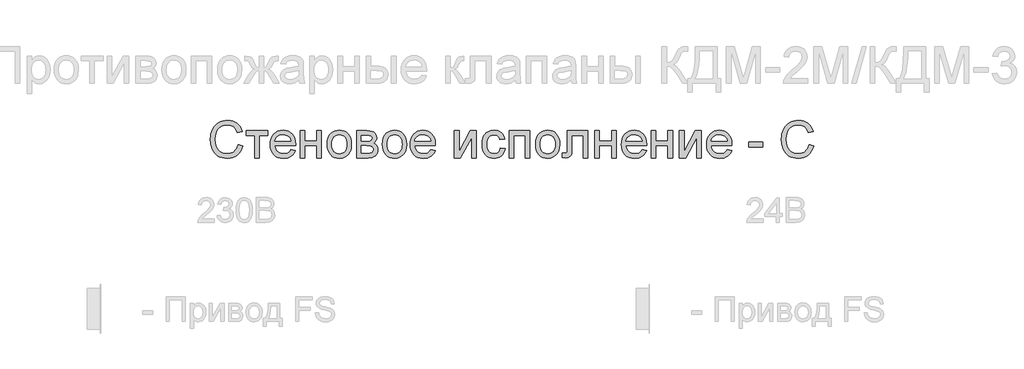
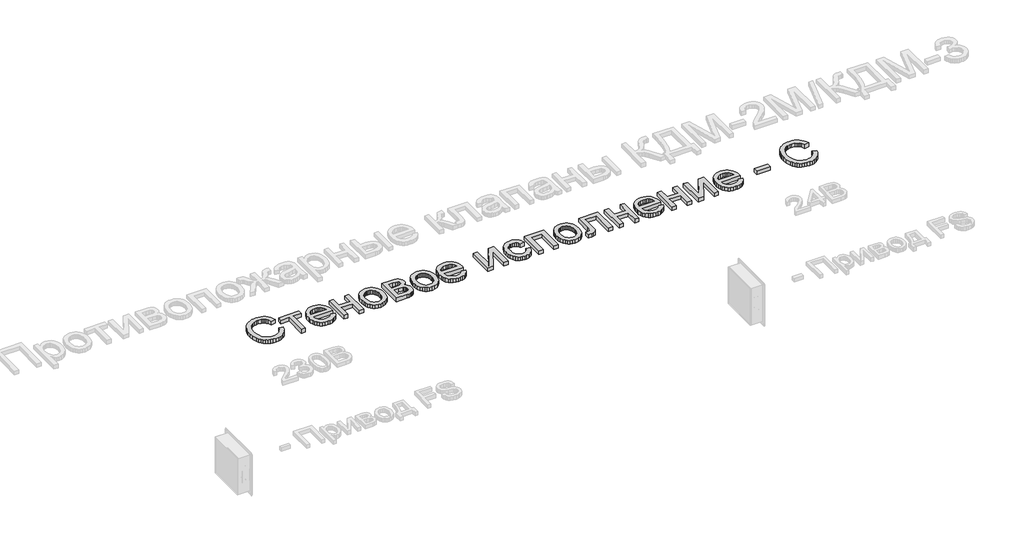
# One storey, part 21 of 23: 1 proxy.
"""IFC4 building model written with IfcOpenShell, lengths in millimetres."""

import ifcopenshell
import ifcopenshell.guid

model = None  # the IFC model being written
_history = None  # IfcOwnerHistory: only IFC2X3 demands one
_inside = {}  # id of a spatial element -> (the spatial element, [elements in it])
_under = {}  # id of a project, library or spatial element -> (it, [spatial elements below it])
_declared = {}  # id of a project -> (the project, [libraries it declares])
_typed = {}  # id of a type object -> (the type object, [elements of that type])
_made_of = {}  # id of a material, layer set ... -> (it, [elements and type objects made of it])


def new_model(schema):
    """Start an empty IFC model of exactly this schema.

    Asked for "IFC4X3", IfcOpenShell would pick the latest addendum, in which some entities
    have other attributes; the version numbers below select the first issue.
    IFC2X3 requires an IfcOwnerHistory on every rooted entity: one is made here for all.
    """
    global model, _history
    if schema == "IFC4X3":
        model = ifcopenshell.file(schema_version=(4, 3, 0, 0))
    else:
        model = ifcopenshell.file(schema=schema)
    _inside.clear()
    _under.clear()
    _declared.clear()
    _typed.clear()
    _made_of.clear()
    _history = None
    if model.schema == "IFC2X3":
        org = make("IfcOrganization", Name="unknown")
        user = make(
            "IfcPersonAndOrganization",
            ThePerson=make("IfcPerson", FamilyName="unknown"),
            TheOrganization=org,
        )
        app = make(
            "IfcApplication",
            ApplicationDeveloper=org,
            Version="unknown",
            ApplicationFullName="unknown",
            ApplicationIdentifier="unknown",
        )
        _history = make(
            "IfcOwnerHistory",
            OwningUser=user,
            OwningApplication=app,
            ChangeAction="ADDED",
            CreationDate=0,
        )
    return model


def make(cls, **values):
    """One entity of the class cls with the attributes given. An attribute that is None is left unset."""
    return model.create_entity(
        cls, **{name: value for name, value in values.items() if value is not None}
    )


def rooted(cls, **values):
    """An entity with a GlobalId (a new one), such as an element, a storey or a relation."""
    return make(cls, GlobalId=ifcopenshell.guid.new(), OwnerHistory=_history, **values)


def si_unit(unit_type, name, prefix=None):
    """IfcSIUnit, for example si_unit("LENGTHUNIT", "METRE", prefix="MILLI")."""
    return make("IfcSIUnit", UnitType=unit_type, Prefix=prefix, Name=name)


def assignment(units):
    """IfcUnitAssignment: the units of a project."""
    return None if units is None else make("IfcUnitAssignment", Units=units)


def point(xyz):
    """IfcCartesianPoint."""
    return None if xyz is None else make("IfcCartesianPoint", Coordinates=xyz)


def direction(xyz):
    """IfcDirection."""
    return None if xyz is None else make("IfcDirection", DirectionRatios=xyz)


def frame(location, z_axis=None, x_axis=None):
    """IfcAxis2Placement3D, a coordinate frame: its origin and axes. An axis left out is left unset."""
    return make(
        "IfcAxis2Placement3D",
        Location=point(location),
        Axis=direction(z_axis),
        RefDirection=direction(x_axis),
    )


def origin():
    """The frame at (0, 0, 0) with its axes left unset."""
    return frame((0.0, 0.0, 0.0))


def origin_with_axes():
    """The frame at (0, 0, 0) with the z axis (0, 0, 1) and the x axis (1, 0, 0) written out."""
    return frame((0.0, 0.0, 0.0), z_axis=(0.0, 0.0, 1.0), x_axis=(1.0, 0.0, 0.0))


def place(relative_to, where):
    """IfcLocalPlacement: puts the frame where relative to a parent placement (None: the world)."""
    return make(
        "IfcLocalPlacement", PlacementRelTo=relative_to, RelativePlacement=where
    )


def context(
    kind, dimensions, precision=None, world=None, true_north=None, identifier=None
):
    """IfcGeometricRepresentationContext, for example the 3D "Model" context."""
    return make(
        "IfcGeometricRepresentationContext",
        ContextIdentifier=identifier,
        ContextType=kind,
        CoordinateSpaceDimension=dimensions,
        Precision=precision,
        WorldCoordinateSystem=world,
        TrueNorth=true_north,
    )


def project(units=None, contexts=None):
    """IfcProject with its units and contexts."""
    return rooted(
        "IfcProject",
        Name="project",
        RepresentationContexts=contexts,
        UnitsInContext=assignment(units),
    )


def spatial(cls, under=None, at=None, **own):
    """A site, building, storey or space (cls), placed at a placement, below another one or the project."""
    s = rooted(cls, ObjectPlacement=at, **own)
    if under is not None:
        _under.setdefault(under.id(), (under, []))[1].append(s)
    return s


def polyline(points):
    """IfcPolyline through the points."""
    return make("IfcPolyline", Points=[point(p) for p in points])


def outline(outer, holes=None, kind="AREA"):
    """IfcArbitraryClosedProfileDef: a profile drawn as a closed curve; with holes, ...WithVoids."""
    if holes is None:
        return make("IfcArbitraryClosedProfileDef", ProfileType=kind, OuterCurve=outer)
    return make(
        "IfcArbitraryProfileDefWithVoids",
        ProfileType=kind,
        OuterCurve=outer,
        InnerCurves=holes,
    )


def extrude(swept, where, along, depth):
    """IfcExtrudedAreaSolid: the profile swept, set in the frame where, extruded along a direction by depth."""
    return make(
        "IfcExtrudedAreaSolid",
        SweptArea=swept,
        Position=where,
        ExtrudedDirection=direction(along),
        Depth=depth,
    )


def shape(context_of_items, identifier, shape_type, items):
    """IfcShapeRepresentation: the items that make up one representation, for example the "Body"."""
    return make(
        "IfcShapeRepresentation",
        ContextOfItems=context_of_items,
        RepresentationIdentifier=identifier,
        RepresentationType=shape_type,
        Items=items,
    )


def made_of(thing, what):
    """Note that an element or type object is made of a material, layer set ...; save() writes the relation."""
    if what is not None:
        _made_of.setdefault(what.id(), (what, []))[1].append(thing)
    return thing


def element(
    cls,
    number,
    at=None,
    inside=None,
    cuts=None,
    type_object=None,
    material=None,
    context=None,
    identifier="Body",
    shape_type=None,
    held_by="IfcProductDefinitionShape",
    body=None,
    shapes=None,
    **own,
):
    """One element of the class cls, such as IfcWall. Its Tag is "e" and its number.

    at: its placement. inside: the storey or other place that contains it. cuts: it is an
    opening in that element (IfcRelVoidsElement). A single representation is given by context,
    identifier, shape_type and body (its items); several are given by shapes. held_by: the class
    of the entity that holds the representations. save() writes the other relations.
    """
    e = rooted(cls, Tag="e%d" % number, ObjectPlacement=at, **own)
    if body is not None:
        shapes = [shape(context, identifier, shape_type, body)]
    if shapes is not None:
        e.Representation = make(held_by, Representations=shapes)
    if inside is not None:
        _inside.setdefault(inside.id(), (inside, []))[1].append(e)
    if cuts is not None:
        rooted(
            "IfcRelVoidsElement", RelatingBuildingElement=cuts, RelatedOpeningElement=e
        )
    if type_object is not None:
        _typed.setdefault(type_object.id(), (type_object, []))[1].append(e)
    return made_of(e, material)


def aggregate(whole, parts):
    """IfcRelAggregates: a whole, such as a stair, and the parts it consists of."""
    return rooted("IfcRelAggregates", RelatingObject=whole, RelatedObjects=parts)


def save(model, path):
    """Write the relations noted so far, then the file.

    IfcRelAggregates (storeys below a building ...), IfcRelContainedInSpatialStructure (elements
    in a storey), IfcRelDefinesByType, IfcRelAssociatesMaterial and IfcRelDeclares: one each for
    every whole, place, type object, material and project.
    """
    for whole, parts in _under.values():
        aggregate(whole, parts)
    for where, things in _inside.values():
        rooted(
            "IfcRelContainedInSpatialStructure",
            RelatedElements=things,
            RelatingStructure=where,
        )
    for kind, things in _typed.values():
        rooted("IfcRelDefinesByType", RelatedObjects=things, RelatingType=kind)
    for what, things in _made_of.values():
        rooted("IfcRelAssociatesMaterial", RelatedObjects=things, RelatingMaterial=what)
    for by, libraries in _declared.values():
        rooted("IfcRelDeclares", RelatingContext=by, RelatedDefinitions=libraries)
    model.write(path)


model = new_model("IFC4")

# Units and contexts
model_context = context("Model", 3, world=origin())
ifc_project = project(units=[si_unit("LENGTHUNIT", "METRE", prefix="MILLI")], contexts=[model_context])

# Site, building, storey
site = spatial("IfcSite", under=ifc_project)
building = spatial("IfcBuilding", under=site)
storey = spatial("IfcBuildingStorey", under=building, Name="Этаж 01", Elevation=0.0)

# Proxy
placement = place(None, origin())
element("IfcBuildingElementProxy", 1, Name="450 мм Arial", ObjectType="450 мм Arial", at=placement, inside=storey, context=model_context, shape_type="SweptSolid", body=[
    extrude(outline(polyline([(18964.7127557, -2363.9152821), (19020.9197736, -2378.4061539), (19009.797755, -2413.3605792), (18994.9844065, -2443.9032477), (18976.4797278, -2470.0341592), (18954.2837192, -2491.7533139), (18928.8972487, -2508.8274306), (18900.8211846, -2521.0232282), (18870.0555269, -2528.3407068), (18836.6002756, -2530.7798663), (18802.3251098, -2528.9342013), (18771.4050749, -2523.3972063), (18743.8401709, -2514.1688812), (18719.6303976, -2501.2492261), (18698.4429866, -2484.8303548), (18679.9451692, -2465.1043811), (18664.1369454, -2442.0713051), (18651.0183153, -2415.7311267), (18633.3575653, -2357.685305), (18627.4706486, -2295.5227584), (18629.1344916, -2261.6215285), (18634.1260206, -2229.9570525), (18642.4452356, -2200.5293304), (18654.0921366, -2173.3383622), (18668.8059976, -2148.833557), (18686.3260928, -2127.4643239), (18706.6524222, -2109.230663), (18729.7849858, -2094.1325743), (18754.9381752, -2082.2935595), (18781.326382, -2073.8371204), (18808.9496064, -2068.7632569), (18837.8078482, -2067.071969), (18869.9560394, -2069.2606945), (18899.4352206, -2075.8268708), (18926.2453918, -2086.7704979), (18950.3865529, -2102.0915759), (18971.460754, -2121.3852934), (18989.070045, -2144.2468393), (19003.2144257, -2170.6762134), (19013.8938963, -2200.6734158), (18957.6868785, -2214.0664942), (18938.2010471, -2173.0776363), (18925.7822602, -2157.4100673), (18911.5795592, -2144.9604049), (18895.5106095, -2135.4747845), (18877.4930767, -2128.6993414), (18835.6122616, -2123.2789869), (18810.3973213, -2124.7815915), (18787.3368005, -2129.2894053), (18766.430699, -2136.8024283), (18747.6790169, -2147.3206606), (18731.3184658, -2160.3706786), (18717.5857576, -2175.4790591), (18706.480892, -2192.6458021), (18698.0038693, -2211.8709076), (18687.2592172, -2253.0107122), (18683.6776665, -2295.4129791), (18687.9178932, -2347.338603), (18700.6385732, -2392.2383497), (18710.2991544, -2411.6246935), (18722.3199912, -2428.3969171), (18736.7010837, -2442.5550203), (18753.4424318, -2454.0990031), (18790.7536822, -2469.4543871), (18831.0015297, -2474.5728485), (18855.4377228, -2472.8301016), (18877.9184716, -2467.6018609), (18898.443776, -2458.8881265), (18917.0136361, -2446.6888982), (18933.1889345, -2431.0590659), (18946.5305539, -2412.053519), (18957.0384943, -2389.6722578), (18964.7127557, -2363.9152821)])), origin_with_axes(), (0.0, 0.0, 1.0), 50.0),
    extrude(outline(polyline([(19063.075037, -2193.5377592), (19330.0583718, -2193.5377592), (19330.0583718, -2249.7447771), (19224.6702133, -2249.7447771), (19224.6702133, -2523.7539891), (19168.4631954, -2523.7539891), (19168.4631954, -2249.7447771), (19063.075037, -2249.7447771), (19063.075037, -2193.5377592)])), origin_with_axes(), (0.0, 0.0, 1.0), 50.0),
    extrude(outline(polyline([(19610.434785, -2425.3917079), (19665.5440096, -2432.4175851), (19657.0944316, -2454.490092), (19645.6876729, -2473.9416173), (19631.3237335, -2490.7721611), (19614.0026133, -2504.9817234), (19593.9027038, -2516.2684109), (19571.2023964, -2524.3303306), (19545.901691, -2529.1674824), (19518.0005877, -2530.7798663), (19483.1250663, -2527.9976464), (19452.0506542, -2519.6509866), (19424.7773514, -2505.7398869), (19401.3051581, -2486.2643473), (19382.4299742, -2461.7664033), (19368.9477, -2432.7880903), (19360.8583355, -2399.3294084), (19358.1618807, -2361.3903574), (19360.8857804, -2322.16483), (19369.0574794, -2287.5912017), (19382.6769777, -2257.6694726), (19401.7442754, -2232.3996427), (19425.1547179, -2212.3237474), (19451.8036507, -2197.9838221), (19481.6910737, -2189.379867), (19514.8169871, -2186.511882), (19546.8759826, -2189.3730058), (19575.868018, -2197.9563773), (19601.7930933, -2212.2619965), (19624.6512085, -2232.2898633), (19643.3102643, -2257.5048036), (19656.6381613, -2287.371643), (19664.6348995, -2321.8903816), (19667.3004789, -2361.0610195), (19666.9711409, -2376.2105672), (19414.3688985, -2376.2105672), (19417.6245418, -2398.639857), (19424.0980918, -2418.2834961), (19433.7895484, -2435.1414848), (19446.6989117, -2449.2138228), (19462.112616, -2460.3083966), (19479.3170957, -2468.2330921), (19498.3123507, -2472.9879094), (19519.098381, -2474.5728485), (19549.0132489, -2471.6362514), (19574.2076056, -2462.82646), (19594.6814509, -2447.5945777), (19610.434785, -2425.3917079)]), holes=[polyline([(19414.3688985, -2320.0035494), (19611.093461, -2320.0035494), (19603.4912423, -2290.3082401), (19588.588698, -2269.0659395), (19573.2607588, -2257.5391096), (19555.8195675, -2249.3056597), (19536.265124, -2244.3655898), (19514.5974284, -2242.7188998), (19476.7098366, -2247.9745853), (19445.3815598, -2263.7416419), (19432.9250362, -2275.1415393), (19423.6040848, -2288.3184898), (19417.4187056, -2303.2724931), (19414.3688985, -2320.0035494)])]), origin_with_axes(), (0.0, 0.0, 1.0), 50.0),
    extrude(outline(polyline([(19723.5074967, -2193.5377592), (19779.7145146, -2193.5377592), (19779.7145146, -2320.0035494), (19927.2579364, -2320.0035494), (19927.2579364, -2193.5377592), (19983.4649543, -2193.5377592), (19983.4649543, -2523.7539891), (19927.2579364, -2523.7539891), (19927.2579364, -2376.2105672), (19779.7145146, -2376.2105672), (19779.7145146, -2523.7539891), (19723.5074967, -2523.7539891), (19723.5074967, -2193.5377592)])), origin_with_axes(), (0.0, 0.0, 1.0), 50.0),
    extrude(outline(polyline([(20053.7237266, -2358.6458742), (20056.7632419, -2315.8799632), (20065.8817876, -2279.0284138), (20081.0793638, -2248.0912259), (20102.3559706, -2223.0683995), (20123.7766627, -2207.0749231), (20147.4203863, -2195.6510114), (20173.2871413, -2188.7966643), (20201.3769278, -2186.511882), (20232.3861584, -2189.2941019), (20260.4244859, -2197.6407617), (20285.4919101, -2211.5518614), (20307.5884313, -2231.027401), (20325.6231171, -2255.4087045), (20338.5050356, -2284.0370958), (20346.2341866, -2316.9125751), (20348.8105703, -2354.0351422), (20344.2547281, -2410.8185016), (20338.5599252, -2434.1260259), (20330.5872013, -2454.0441134), (20308.20594, -2486.4152939), (20277.5088944, -2510.635359), (20241.0484338, -2525.7437395), (20201.3769278, -2530.7798663), (20169.9148574, -2528.0079382), (20141.6158041, -2519.6921538), (20116.4797677, -2505.8325132), (20094.5067484, -2486.4290163), (20076.6641763, -2461.8110012), (20063.919482, -2432.3078058), (20056.2726655, -2397.9194301), (20053.7237266, -2358.6458742)]), holes=[polyline([(20109.9307445, -2358.5360948), (20111.5568508, -2385.7991057), (20116.4351699, -2409.4050927), (20124.5657016, -2429.3540556), (20135.9484461, -2445.6459946), (20149.7943643, -2458.3014931), (20165.3144173, -2467.341135), (20182.5086052, -2472.7649201), (20201.3769278, -2474.5728485), (20220.1491935, -2472.7546283), (20237.2747693, -2467.2999677), (20252.7536551, -2458.2088668), (20266.5858509, -2445.4813256), (20277.9685953, -2429.0281482), (20286.0991271, -2408.7601391), (20290.9774461, -2384.6772982), (20292.6035525, -2356.7796255), (20290.9671543, -2330.3811268), (20286.0579598, -2307.3926486), (20277.875969, -2287.814191), (20266.4211819, -2271.6457537), (20252.537527, -2258.9902552), (20237.068933, -2249.9506133), (20220.0154, -2244.5268282), (20201.3769278, -2242.7188998), (20182.5086052, -2244.519967), (20165.3144173, -2249.9231685), (20149.7943643, -2258.9285043), (20135.9484461, -2271.5359744), (20124.5657016, -2287.7798849), (20116.4351699, -2307.6945418), (20111.5568508, -2331.2799451), (20109.9307445, -2358.5360948)])]), origin_with_axes(), (0.0, 0.0, 1.0), 50.0),
    extrude(outline(polyline([(20412.0434654, -2193.5377592), (20535.8745516, -2193.5377592), (20575.6832818, -2195.4177303), (20603.7730683, -2201.0576434), (20624.4390275, -2211.7062386), (20641.9762758, -2228.6122557), (20653.9559453, -2250.6367341), (20657.9491685, -2276.6407133), (20655.5340232, -2297.5948433), (20648.2885873, -2315.6672658), (20636.185416, -2330.9403153), (20619.1970644, -2343.4963264), (20640.0002478, -2355.1741028), (20656.9611545, -2373.9600909), (20668.2409809, -2398.3722698), (20672.000923, -2426.9286185), (20668.8790732, -2449.9342497), (20662.477566, -2469.7700027), (20652.7964011, -2486.4358775), (20639.8355788, -2499.9318741), (20623.5745153, -2510.3540494), (20603.992627, -2517.7984603), (20581.0899139, -2522.2651069), (20554.866376, -2523.7539891), (20412.0434654, -2523.7539891), (20412.0434654, -2193.5377592)]), holes=[polyline([(20468.2504833, -2467.5469712), (20537.1919036, -2467.5469712), (20574.7638799, -2465.0083242), (20598.3389914, -2457.3923831), (20610.9910594, -2443.5464648), (20615.7939051, -2422.3178866), (20613.3924822, -2408.2524097), (20606.1882136, -2395.2572813), (20595.1279459, -2385.0889707), (20581.158526, -2379.5039472), (20531.702937, -2376.2105672), (20468.2504833, -2376.2105672), (20468.2504833, -2467.5469712)]), polyline([(20468.2504833, -2320.0035494), (20523.7988251, -2320.0035494), (20569.6316961, -2317.1492868), (20591.9169005, -2305.7322363), (20599.2858381, -2296.2912137), (20601.7421507, -2285.0937219), (20597.4333119, -2268.324929), (20584.5067956, -2257.5391096), (20561.1512428, -2251.6933602), (20525.5552944, -2249.7447771), (20468.2504833, -2249.7447771), (20468.2504833, -2320.0035494)])]), origin_with_axes(), (0.0, 0.0, 1.0), 50.0),
    extrude(outline(polyline([(20728.2079408, -2358.6458742), (20731.2474561, -2315.8799632), (20740.3660018, -2279.0284138), (20755.5635781, -2248.0912259), (20776.8401848, -2223.0683995), (20798.2608769, -2207.0749231), (20821.9046005, -2195.6510114), (20847.7713555, -2188.7966643), (20875.861142, -2186.511882), (20906.8703726, -2189.2941019), (20934.9087001, -2197.6407617), (20959.9761244, -2211.5518614), (20982.0726455, -2231.027401), (21000.1073313, -2255.4087045), (21012.9892498, -2284.0370958), (21020.7184009, -2316.9125751), (21023.2947846, -2354.0351422), (21018.7389423, -2410.8185016), (21013.0441395, -2434.1260259), (21005.0714155, -2454.0441134), (20982.6901542, -2486.4152939), (20951.9931086, -2510.635359), (20915.532648, -2525.7437395), (20875.861142, -2530.7798663), (20844.3990717, -2528.0079382), (20816.1000183, -2519.6921538), (20790.9639819, -2505.8325132), (20768.9909626, -2486.4290163), (20751.1483906, -2461.8110012), (20738.4036963, -2432.3078058), (20730.7568797, -2397.9194301), (20728.2079408, -2358.6458742)]), holes=[polyline([(20784.4149587, -2358.5360948), (20786.041065, -2385.7991057), (20790.9193841, -2409.4050927), (20799.0499159, -2429.3540556), (20810.4326603, -2445.6459946), (20824.2785785, -2458.3014931), (20839.7986316, -2467.341135), (20856.9928194, -2472.7649201), (20875.861142, -2474.5728485), (20894.6334078, -2472.7546283), (20911.7589835, -2467.2999677), (20927.2378693, -2458.2088668), (20941.0700651, -2445.4813256), (20952.4528095, -2429.0281482), (20960.5833413, -2408.7601391), (20965.4616604, -2384.6772982), (20967.0877667, -2356.7796255), (20965.4513685, -2330.3811268), (20960.5421741, -2307.3926486), (20952.3601832, -2287.814191), (20940.9053961, -2271.6457537), (20927.0217412, -2258.9902552), (20911.5531473, -2249.9506133), (20894.4996142, -2244.5268282), (20875.861142, -2242.7188998), (20856.9928194, -2244.519967), (20839.7986316, -2249.9231685), (20824.2785785, -2258.9285043), (20810.4326603, -2271.5359744), (20799.0499159, -2287.7798849), (20790.9193841, -2307.6945418), (20786.041065, -2331.2799451), (20784.4149587, -2358.5360948)])]), origin_with_axes(), (0.0, 0.0, 1.0), 50.0),
    extrude(outline(polyline([(21317.7229523, -2425.3917079), (21372.8321768, -2432.4175851), (21364.3825989, -2454.490092), (21352.9758402, -2473.9416173), (21338.6119008, -2490.7721611), (21321.2907806, -2504.9817234), (21301.1908711, -2516.2684109), (21278.4905636, -2524.3303306), (21253.1898582, -2529.1674824), (21225.288755, -2530.7798663), (21190.4132335, -2527.9976464), (21159.3388214, -2519.6509866), (21132.0655187, -2505.7398869), (21108.5933253, -2486.2643473), (21089.7181415, -2461.7664033), (21076.2358673, -2432.7880903), (21068.1465028, -2399.3294084), (21065.4500479, -2361.3903574), (21068.1739476, -2322.16483), (21076.3456466, -2287.5912017), (21089.965145, -2257.6694726), (21109.0324427, -2232.3996427), (21132.4428851, -2212.3237474), (21159.0918179, -2197.9838221), (21188.979241, -2189.379867), (21222.1051543, -2186.511882), (21254.1641498, -2189.3730058), (21283.1561852, -2197.9563773), (21309.0812605, -2212.2619965), (21331.9393758, -2232.2898633), (21350.5984315, -2257.5048036), (21363.9263285, -2287.371643), (21371.9230667, -2321.8903816), (21374.5886461, -2361.0610195), (21374.2593081, -2376.2105672), (21121.6570658, -2376.2105672), (21124.9127091, -2398.639857), (21131.3862591, -2418.2834961), (21141.0777157, -2435.1414848), (21153.987079, -2449.2138228), (21169.4007833, -2460.3083966), (21186.6052629, -2468.2330921), (21205.6005179, -2472.9879094), (21226.3865483, -2474.5728485), (21256.3014162, -2471.6362514), (21281.4957728, -2462.82646), (21301.9696182, -2447.5945777), (21317.7229523, -2425.3917079)]), holes=[polyline([(21121.6570658, -2320.0035494), (21318.3816283, -2320.0035494), (21310.7794096, -2290.3082401), (21295.8768653, -2269.0659395), (21280.5489261, -2257.5391096), (21263.1077348, -2249.3056597), (21243.5532913, -2244.3655898), (21221.8855957, -2242.7188998), (21183.9980038, -2247.9745853), (21152.669727, -2263.7416419), (21140.2132035, -2275.1415393), (21130.8922521, -2288.3184898), (21124.7068729, -2303.2724931), (21121.6570658, -2320.0035494)])]), origin_with_axes(), (0.0, 0.0, 1.0), 50.0),
    extrude(outline(polyline([(21606.4425948, -2193.5377592), (21662.6496126, -2193.5377592), (21662.6496126, -2445.3715462), (21800.752012, -2193.5377592), (21873.4259296, -2193.5377592), (21873.4259296, -2523.7539891), (21817.2189117, -2523.7539891), (21817.2189117, -2273.4571127), (21679.994747, -2523.7539891), (21606.4425948, -2523.7539891), (21606.4425948, -2193.5377592)])), origin_with_axes(), (0.0, 0.0, 1.0), 50.0),
    extrude(outline(polyline([(22168.5127733, -2404.3140762), (22224.7197911, -2411.3399534), (22218.6064546, -2437.8619538), (22209.0487915, -2461.3307166), (22196.0468019, -2481.7462417), (22179.6004858, -2499.1085291), (22160.4028252, -2512.9647391), (22139.1468021, -2522.862032), (22115.8324165, -2528.8004078), (22090.4596684, -2530.7798663), (22058.9358472, -2528.01823), (22030.6710999, -2519.7333211), (22005.6654265, -2505.9251395), (21983.918827, -2486.5936853), (21966.3163972, -2462.1026025), (21953.7432332, -2432.8155352), (21946.1993347, -2398.7324833), (21943.6847019, -2359.8534468), (21947.9798182, -2309.8352388), (21960.8651673, -2266.4861252), (21970.5806382, -2247.7310124), (21982.5465853, -2231.4802407), (21996.7630088, -2217.7338101), (22013.2299085, -2206.4917204), (22049.9373726, -2191.5068416), (22089.6912131, -2186.511882), (22114.6282744, -2188.227184), (22137.1844965, -2193.3730902), (22157.3598793, -2201.9496005), (22175.1544229, -2213.9567149), (22190.266234, -2229.1199851), (22202.3934196, -2247.1649628), (22211.5359795, -2268.0916479), (22217.6939139, -2291.9000405), (22161.4868961, -2298.9259177), (22151.2911406, -2274.4039595), (22135.4143048, -2256.825544), (22114.7346232, -2246.2455609), (22090.1303304, -2242.7188998), (22071.0321573, -2244.4547855), (22053.807094, -2249.6624426), (22038.4551406, -2258.341871), (22024.976297, -2270.4930708), (22014.0017945, -2286.3973515), (22006.1628641, -2306.3360226), (22001.4595058, -2330.3090841), (21999.8917197, -2358.3165362), (22001.4251998, -2386.7459525), (22006.0256399, -2410.996893), (22013.6930401, -2431.0693577), (22024.4274004, -2446.9633465), (22037.6386568, -2459.0425036), (22052.7367456, -2467.670473), (22069.7216665, -2472.8472546), (22088.5934198, -2474.5728485), (22117.6986651, -2470.2640097), (22141.5619474, -2457.3374934), (22158.9208042, -2435.4639615), (22168.5127733, -2404.3140762)])), origin_with_axes(), (0.0, 0.0, 1.0), 50.0),
    extrude(outline(polyline([(22273.9009318, -2193.5377592), (22526.8325121, -2193.5377592), (22526.8325121, -2523.7539891), (22470.6254943, -2523.7539891), (22470.6254943, -2249.7447771), (22330.1079496, -2249.7447771), (22330.1079496, -2523.7539891), (22273.9009318, -2523.7539891), (22273.9009318, -2193.5377592)])), origin_with_axes(), (0.0, 0.0, 1.0), 50.0),
    extrude(outline(polyline([(22597.0912844, -2358.6458742), (22600.1307997, -2315.8799632), (22609.2493454, -2279.0284138), (22624.4469216, -2248.0912259), (22645.7235284, -2223.0683995), (22667.1442205, -2207.0749231), (22690.7879441, -2195.6510114), (22716.6546991, -2188.7966643), (22744.7444856, -2186.511882), (22775.7537162, -2189.2941019), (22803.7920437, -2197.6407617), (22828.859468, -2211.5518614), (22850.9559891, -2231.027401), (22868.9906749, -2255.4087045), (22881.8725934, -2284.0370958), (22889.6017445, -2316.9125751), (22892.1781281, -2354.0351422), (22887.6222859, -2410.8185016), (22881.927483, -2434.1260259), (22873.9547591, -2454.0441134), (22851.5734978, -2486.4152939), (22820.8764522, -2510.635359), (22784.4159916, -2525.7437395), (22744.7444856, -2530.7798663), (22713.2824153, -2528.0079382), (22684.9833619, -2519.6921538), (22659.8473255, -2505.8325132), (22637.8743062, -2486.4290163), (22620.0317342, -2461.8110012), (22607.2870399, -2432.3078058), (22599.6402233, -2397.9194301), (22597.0912844, -2358.6458742)]), holes=[polyline([(22653.2983023, -2358.5360948), (22654.9244086, -2385.7991057), (22659.8027277, -2409.4050927), (22667.9332594, -2429.3540556), (22679.3160039, -2445.6459946), (22693.1619221, -2458.3014931), (22708.6819751, -2467.341135), (22725.876163, -2472.7649201), (22744.7444856, -2474.5728485), (22763.5167513, -2472.7546283), (22780.6423271, -2467.2999677), (22796.1212129, -2458.2088668), (22809.9534087, -2445.4813256), (22821.3361531, -2429.0281482), (22829.4666849, -2408.7601391), (22834.3450039, -2384.6772982), (22835.9711103, -2356.7796255), (22834.3347121, -2330.3811268), (22829.4255176, -2307.3926486), (22821.2435268, -2287.814191), (22809.7887397, -2271.6457537), (22795.9050848, -2258.9902552), (22780.4364908, -2249.9506133), (22763.3829578, -2244.5268282), (22744.7444856, -2242.7188998), (22725.876163, -2244.519967), (22708.6819751, -2249.9231685), (22693.1619221, -2258.9285043), (22679.3160039, -2271.5359744), (22667.9332594, -2287.7798849), (22659.8027277, -2307.6945418), (22654.9244086, -2331.2799451), (22653.2983023, -2358.5360948)])]), origin_with_axes(), (0.0, 0.0, 1.0), 50.0),
    extrude(outline(polyline([(22983.5145322, -2193.5377592), (23236.4461125, -2193.5377592), (23236.4461125, -2523.4246511), (23180.2390946, -2523.4246511), (23180.2390946, -2249.7447771), (23039.72155, -2249.7447771), (23039.72155, -2407.2781181), (23035.9341631, -2479.9520357), (23028.8396737, -2496.4052131), (23015.1309797, -2510.635359), (22994.3277963, -2520.4743316), (22965.9498391, -2523.7539891), (22920.2816371, -2520.8997265), (22920.2816371, -2467.5469712), (22945.421104, -2467.5469712), (22970.8350193, -2464.0889223), (22977.1884982, -2459.6154145), (22980.9896075, -2453.1109891), (22983.5145322, -2404.0945175), (22983.5145322, -2193.5377592)])), origin_with_axes(), (0.0, 0.0, 1.0), 50.0),
    extrude(outline(polyline([(23320.7566393, -2193.5377592), (23376.9636571, -2193.5377592), (23376.9636571, -2320.0035494), (23524.507079, -2320.0035494), (23524.507079, -2193.5377592), (23580.7140968, -2193.5377592), (23580.7140968, -2523.7539891), (23524.507079, -2523.7539891), (23524.507079, -2376.2105672), (23376.9636571, -2376.2105672), (23376.9636571, -2523.7539891), (23320.7566393, -2523.7539891), (23320.7566393, -2193.5377592)])), origin_with_axes(), (0.0, 0.0, 1.0), 50.0),
    extrude(outline(polyline([(23896.2198963, -2425.3917079), (23951.3291208, -2432.4175851), (23942.8795429, -2454.490092), (23931.4727842, -2473.9416173), (23917.1088447, -2490.7721611), (23899.7877245, -2504.9817234), (23879.687815, -2516.2684109), (23856.9875076, -2524.3303306), (23831.6868022, -2529.1674824), (23803.7856989, -2530.7798663), (23768.9101775, -2527.9976464), (23737.8357654, -2519.6509866), (23710.5624627, -2505.7398869), (23687.0902693, -2486.2643473), (23668.2150854, -2461.7664033), (23654.7328113, -2432.7880903), (23646.6434468, -2399.3294084), (23643.9469919, -2361.3903574), (23646.6708916, -2322.16483), (23654.8425906, -2287.5912017), (23668.4620889, -2257.6694726), (23687.5293866, -2232.3996427), (23710.9398291, -2212.3237474), (23737.5887619, -2197.9838221), (23767.476185, -2189.379867), (23800.6020983, -2186.511882), (23832.6610938, -2189.3730058), (23861.6531292, -2197.9563773), (23887.5782045, -2212.2619965), (23910.4363197, -2232.2898633), (23929.0953755, -2257.5048036), (23942.4232725, -2287.371643), (23950.4200107, -2321.8903816), (23953.0855901, -2361.0610195), (23952.7562521, -2376.2105672), (23700.1540098, -2376.2105672), (23703.4096531, -2398.639857), (23709.883203, -2418.2834961), (23719.5746597, -2435.1414848), (23732.484023, -2449.2138228), (23747.8977273, -2460.3083966), (23765.1022069, -2468.2330921), (23784.0974619, -2472.9879094), (23804.8834923, -2474.5728485), (23834.7983602, -2471.6362514), (23859.9927168, -2462.82646), (23880.4665622, -2447.5945777), (23896.2198963, -2425.3917079)]), holes=[polyline([(23700.1540098, -2320.0035494), (23896.8785723, -2320.0035494), (23889.2763535, -2290.3082401), (23874.3738092, -2269.0659395), (23859.0458701, -2257.5391096), (23841.6046787, -2249.3056597), (23822.0502353, -2244.3655898), (23800.3825397, -2242.7188998), (23762.4949478, -2247.9745853), (23731.166671, -2263.7416419), (23718.7101474, -2275.1415393), (23709.3891961, -2288.3184898), (23703.2038168, -2303.2724931), (23700.1540098, -2320.0035494)])]), origin_with_axes(), (0.0, 0.0, 1.0), 50.0),
    extrude(outline(polyline([(24009.292608, -2193.5377592), (24065.4996258, -2193.5377592), (24065.4996258, -2320.0035494), (24213.0430477, -2320.0035494), (24213.0430477, -2193.5377592), (24269.2500655, -2193.5377592), (24269.2500655, -2523.7539891), (24213.0430477, -2523.7539891), (24213.0430477, -2376.2105672), (24065.4996258, -2376.2105672), (24065.4996258, -2523.7539891), (24009.292608, -2523.7539891), (24009.292608, -2193.5377592)])), origin_with_axes(), (0.0, 0.0, 1.0), 50.0),
    extrude(outline(polyline([(24353.5605923, -2193.5377592), (24409.7676102, -2193.5377592), (24409.7676102, -2445.3715462), (24547.8700095, -2193.5377592), (24620.5439271, -2193.5377592), (24620.5439271, -2523.7539891), (24564.3369092, -2523.7539891), (24564.3369092, -2273.4571127), (24427.1127446, -2523.7539891), (24353.5605923, -2523.7539891), (24353.5605923, -2193.5377592)])), origin_with_axes(), (0.0, 0.0, 1.0), 50.0),
    extrude(outline(polyline([(24936.0497265, -2425.3917079), (24991.1589511, -2432.4175851), (24982.7093731, -2454.490092), (24971.3026144, -2473.9416173), (24956.938675, -2490.7721611), (24939.6175548, -2504.9817234), (24919.5176453, -2516.2684109), (24896.8173378, -2524.3303306), (24871.5166325, -2529.1674824), (24843.6155292, -2530.7798663), (24808.7400077, -2527.9976464), (24777.6655957, -2519.6509866), (24750.3922929, -2505.7398869), (24726.9200996, -2486.2643473), (24708.0449157, -2461.7664033), (24694.5626415, -2432.7880903), (24686.473277, -2399.3294084), (24683.7768222, -2361.3903574), (24686.5007219, -2322.16483), (24694.6724209, -2287.5912017), (24708.2919192, -2257.6694726), (24727.3592169, -2232.3996427), (24750.7696594, -2212.3237474), (24777.4185922, -2197.9838221), (24807.3060152, -2189.379867), (24840.4319286, -2186.511882), (24872.4909241, -2189.3730058), (24901.4829594, -2197.9563773), (24927.4080348, -2212.2619965), (24950.26615, -2232.2898633), (24968.9252058, -2257.5048036), (24982.2531028, -2287.371643), (24990.249841, -2321.8903816), (24992.9154204, -2361.0610195), (24992.5860824, -2376.2105672), (24739.98384, -2376.2105672), (24743.2394833, -2398.639857), (24749.7130333, -2418.2834961), (24759.4044899, -2435.1414848), (24772.3138532, -2449.2138228), (24787.7275575, -2460.3083966), (24804.9320372, -2468.2330921), (24823.9272922, -2472.9879094), (24844.7133225, -2474.5728485), (24874.6281904, -2471.6362514), (24899.8225471, -2462.82646), (24920.2963924, -2447.5945777), (24936.0497265, -2425.3917079)]), holes=[polyline([(24739.98384, -2320.0035494), (24936.7084025, -2320.0035494), (24929.1061838, -2290.3082401), (24914.2036395, -2269.0659395), (24898.8757003, -2257.5391096), (24881.434509, -2249.3056597), (24861.8800655, -2244.3655898), (24840.2123699, -2242.7188998), (24802.324778, -2247.9745853), (24770.9965013, -2263.7416419), (24758.5399777, -2275.1415393), (24749.2190263, -2288.3184898), (24743.0336471, -2303.2724931), (24739.98384, -2320.0035494)])]), origin_with_axes(), (0.0, 0.0, 1.0), 50.0),
    extrude(outline(polyline([(25196.6658601, -2390.2623217), (25196.6658601, -2334.0553038), (25372.3127909, -2334.0553038), (25372.3127909, -2390.2623217), (25196.6658601, -2390.2623217)])), origin_with_axes(), (0.0, 0.0, 1.0), 50.0),
    extrude(outline(polyline([(25934.3829694, -2363.9152821), (25990.5899872, -2378.4061539), (25979.4679687, -2413.3605792), (25964.6546201, -2443.9032477), (25946.1499415, -2470.0341592), (25923.9539329, -2491.7533139), (25898.5674624, -2508.8274306), (25870.4913983, -2521.0232282), (25839.7257406, -2528.3407068), (25806.2704892, -2530.7798663), (25771.9953235, -2528.9342013), (25741.0752886, -2523.3972063), (25713.5103845, -2514.1688812), (25689.3006113, -2501.2492261), (25668.1132003, -2484.8303548), (25649.6153829, -2465.1043811), (25633.8071591, -2442.0713051), (25620.6885289, -2415.7311267), (25603.0277789, -2357.685305), (25597.1408623, -2295.5227584), (25598.8047053, -2261.6215285), (25603.7962343, -2229.9570525), (25612.1154493, -2200.5293304), (25623.7623502, -2173.3383622), (25638.4762113, -2148.833557), (25655.9963065, -2127.4643239), (25676.3226359, -2109.230663), (25699.4551995, -2094.1325743), (25724.6083888, -2082.2935595), (25750.9965957, -2073.8371204), (25778.6198201, -2068.7632569), (25807.4780619, -2067.071969), (25839.6262531, -2069.2606945), (25869.1054343, -2075.8268708), (25895.9156054, -2086.7704979), (25920.0567666, -2102.0915759), (25941.1309677, -2121.3852934), (25958.7402586, -2144.2468393), (25972.8846394, -2170.6762134), (25983.56411, -2200.6734158), (25927.3570922, -2214.0664942), (25907.8712608, -2173.0776363), (25895.4524739, -2157.4100673), (25881.2497728, -2144.9604049), (25865.1808231, -2135.4747845), (25847.1632903, -2128.6993414), (25805.2824753, -2123.2789869), (25780.067535, -2124.7815915), (25757.0070141, -2129.2894053), (25736.1009126, -2136.8024283), (25717.3492305, -2147.3206606), (25700.9886795, -2160.3706786), (25687.2559712, -2175.4790591), (25676.1511057, -2192.6458021), (25667.6740829, -2211.8709076), (25656.9294308, -2253.0107122), (25653.3478801, -2295.4129791), (25657.5881068, -2347.338603), (25670.3087869, -2392.2383497), (25679.9693681, -2411.6246935), (25691.9902049, -2428.3969171), (25706.3712974, -2442.5550203), (25723.1126455, -2454.0990031), (25760.4238958, -2469.4543871), (25800.6717433, -2474.5728485), (25825.1079365, -2472.8301016), (25847.5886852, -2467.6018609), (25868.1139897, -2458.8881265), (25886.6838498, -2446.6888982), (25902.8591482, -2431.0590659), (25916.2007676, -2412.053519), (25926.708708, -2389.6722578), (25934.3829694, -2363.9152821)])), origin_with_axes(), (0.0, 0.0, 1.0), 50.0),
])

save(model, "model.ifc")
